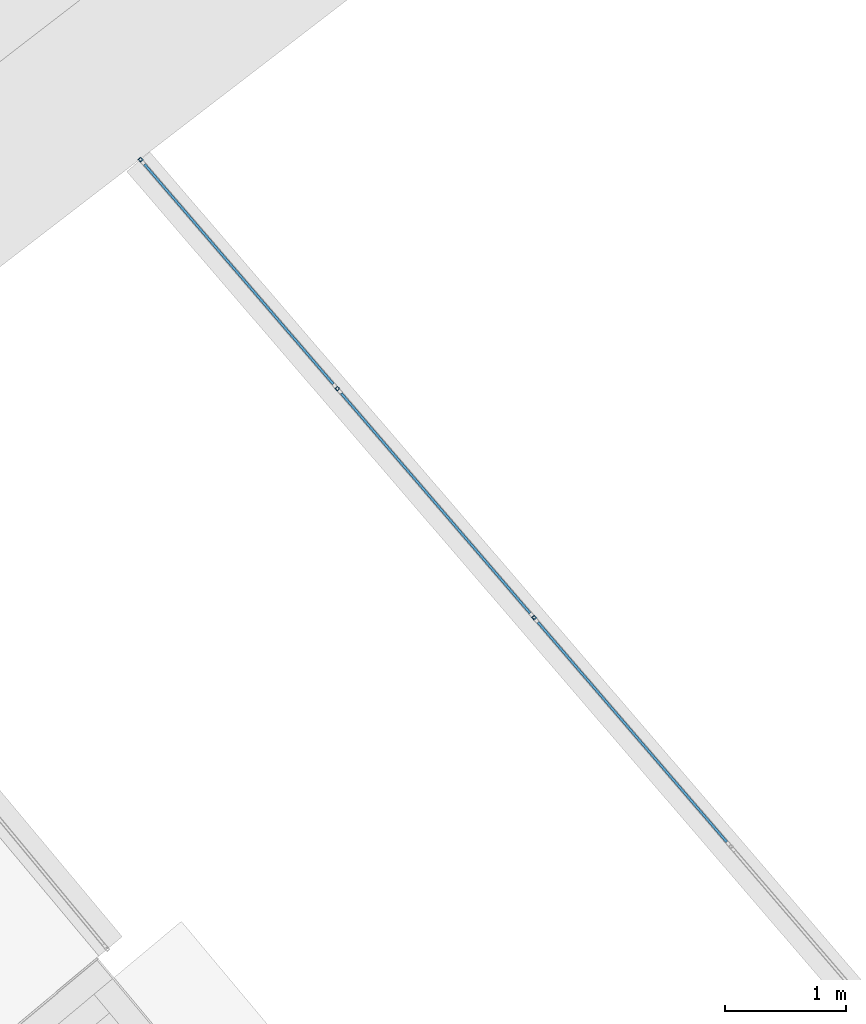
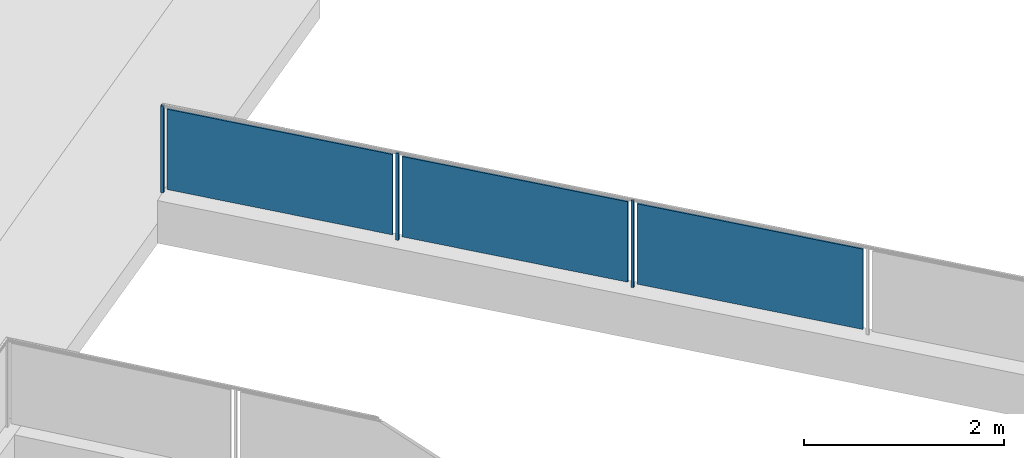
# One storey, part 57 of 75: 6 building element parts, 1 element without a shape of its own.
"""IFC4 building model written with IfcOpenShell, lengths in metres."""

from ifc_helpers import new_model, entity, si_unit, converted_unit, derived_unit, direction, frame, origin_with_axes, place, context, subcontext, project, spatial, polygons, material, type_object, element, aggregate, save


model = new_model("IFC4")

# Units and contexts
model_context = context("Model", 3, precision=1e-05, world=origin_with_axes(), true_north=direction((0.0, 1.0)))
body_context = subcontext(model_context, "Body", "Model", "MODEL_VIEW")
ifc_project = project(units=[si_unit("LENGTHUNIT", "METRE"), si_unit("AREAUNIT", "SQUARE_METRE"), si_unit("VOLUMEUNIT", "CUBIC_METRE"), converted_unit("PLANEANGLEUNIT", "DEGREE", entity("IfcPlaneAngleMeasure", 0.0174532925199), si_unit("PLANEANGLEUNIT", "RADIAN"), dimensions=[0, 0, 0, 0, 0, 0, 0]), converted_unit("TIMEUNIT", "Year", entity("IfcTimeMeasure", 31556926.0), si_unit("TIMEUNIT", "SECOND"), dimensions=[0, 0, 1, 0, 0, 0, 0]), si_unit("MASSUNIT", "GRAM", prefix="KILO"), si_unit("THERMODYNAMICTEMPERATUREUNIT", "DEGREE_CELSIUS"), si_unit("LUMINOUSINTENSITYUNIT", "LUMEN"), si_unit("ENERGYUNIT", "JOULE", prefix="MEGA"), derived_unit("THERMALCONDUCTANCEUNIT", [(si_unit("POWERUNIT", "WATT"), 1), (si_unit("LENGTHUNIT", "METRE"), -1), (si_unit("THERMODYNAMICTEMPERATUREUNIT", "KELVIN"), -1)]), derived_unit("SPECIFICHEATCAPACITYUNIT", [(si_unit("ENERGYUNIT", "JOULE"), 1), (si_unit("MASSUNIT", "GRAM", prefix="KILO"), -1), (si_unit("THERMODYNAMICTEMPERATUREUNIT", "KELVIN"), -1)]), derived_unit("MASSDENSITYUNIT", [(si_unit("MASSUNIT", "GRAM", prefix="KILO"), 1), (si_unit("VOLUMEUNIT", "CUBIC_METRE"), -1)])], contexts=[model_context])

# Site, building, storey
site_placement = place(None, frame((-0.00153261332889, -0.00661245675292, 0.0), z_axis=(0.0, 0.0, 1.0), x_axis=(1.0, 0.0, 0.0)))
site = spatial("IfcSite", under=ifc_project, at=site_placement, Name="Gelände", CompositionType="ELEMENT")
building_placement = place(site_placement, origin_with_axes())
building = spatial("IfcBuilding", under=site, at=building_placement, Name="Gebäude", CompositionType="ELEMENT")
storey_placement = place(building_placement, frame((0.0, 0.0, -0.22), z_axis=(0.0, 0.0, 1.0), x_axis=(1.0, 0.0, 0.0)))
storey = spatial("IfcBuildingStorey", under=building, at=storey_placement, Name="EG", CompositionType="ELEMENT", Elevation=-0.22)

# Railing, building element parts
railing_type = type_object("IfcRailingType", Name="Geländerart", PredefinedType="NOTDEFINED")
railing_placement = place(storey_placement, frame((-12.1608341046, 23.557810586, 0.523948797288), z_axis=(0.0, 0.0, 1.0), x_axis=(1.0, 0.0, 0.0)))
railing = element("IfcRailing", 1, at=railing_placement, inside=storey, type_object=railing_type, Name="Geländer - 001", PredefinedType="NOTDEFINED")
ifc_material_1 = material(Name="Aluminium")
building_element_part_1_placement = place(railing_placement, origin_with_axes())
building_element_part_1 = element("IfcBuildingElementPart", 2, at=building_element_part_1_placement, material=ifc_material_1, Name="Aluminium", PredefinedType="NOTDEFINED", context=body_context, shape_type="Tessellation", body=[
    polygons([(17.4583632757, 13.4377624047, 0.0), (17.4356091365, 13.4182112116, 0.0), (17.4356091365, 13.4182112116, 1.06), (17.4583632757, 13.4377624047, 1.06), (17.4779144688, 13.4150082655, 0.0), (17.4551603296, 13.3954570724, 0.0), (17.4578294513, 13.430711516, 0.0), (17.4426600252, 13.4176773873, 0.0), (17.4556941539, 13.4025079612, 0.0), (17.47086358, 13.4155420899, 0.0), (17.4551603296, 13.3954570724, 1.06), (17.4779144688, 13.4150082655, 1.06), (17.4578294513, 13.430711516, 1.06), (17.47086358, 13.4155420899, 1.06), (17.4556941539, 13.4025079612, 1.06), (17.4426600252, 13.4176773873, 1.06)], [[[1, 2, 3, 4]], [[1, 5, 6, 2], [7, 8, 9, 10]], [[2, 6, 11, 3]], [[4, 3, 11, 12], [13, 14, 15, 16]], [[5, 1, 4, 12]], [[6, 5, 12, 11]], [[8, 7, 13, 16]], [[9, 8, 16, 15]], [[10, 9, 15, 14]], [[7, 10, 14, 13]]], closed=True),
])
ifc_material_2 = material(Name="Zaun")
building_element_part_2_placement = place(railing_placement, origin_with_axes())
building_element_part_2 = element("IfcBuildingElementPart", 3, at=building_element_part_2_placement, material=ifc_material_2, Name="Zaun", PredefinedType="NOTDEFINED", context=body_context, shape_type="Tessellation", body=[
    polygons([(20.7237481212, 9.59906975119, 0.05), (22.2795703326, 7.78836720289, 0.05), (22.2795703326, 7.78836720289, 1.03), (20.7237481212, 9.59906975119, 1.03), (22.2947397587, 7.80140133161, 0.05), (20.7389175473, 9.61210387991, 0.05), (22.2947397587, 7.80140133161, 1.03), (20.7389175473, 9.61210387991, 1.03)], [[[1, 2, 3, 4]], [[5, 2, 1, 6]], [[7, 3, 2, 5]], [[4, 3, 7, 8]], [[1, 4, 8, 6]], [[7, 5, 6, 8]]], closed=True),
])
building_element_part_3_placement = place(railing_placement, origin_with_axes())
building_element_part_3 = element("IfcBuildingElementPart", 4, at=building_element_part_3_placement, material=ifc_material_1, Name="Aluminium", PredefinedType="NOTDEFINED", context=body_context, shape_type="Tessellation", body=[
    polygons([(20.7003489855, 9.66466304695, 0.0), (20.6775948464, 9.64511185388, 0.0), (20.6775948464, 9.64511185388, 1.06), (20.7003489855, 9.66466304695, 1.06), (20.7199001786, 9.64190890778, 0.0), (20.6971460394, 9.62235771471, 0.0), (20.6998151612, 9.65761215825, 0.0), (20.6846457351, 9.64457802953, 0.0), (20.6976798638, 9.62940860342, 0.0), (20.7128492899, 9.64244273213, 0.0), (20.6971460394, 9.62235771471, 1.06), (20.7199001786, 9.64190890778, 1.06), (20.6998151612, 9.65761215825, 1.06), (20.7128492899, 9.64244273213, 1.06), (20.6976798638, 9.62940860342, 1.06), (20.6846457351, 9.64457802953, 1.06)], [[[1, 2, 3, 4]], [[1, 5, 6, 2], [7, 8, 9, 10]], [[2, 6, 11, 3]], [[4, 3, 11, 12], [13, 14, 15, 16]], [[5, 1, 4, 12]], [[6, 5, 12, 11]], [[8, 7, 13, 16]], [[9, 8, 16, 15]], [[10, 9, 15, 14]], [[7, 10, 14, 13]]], closed=True),
])
building_element_part_4_placement = place(railing_placement, origin_with_axes())
building_element_part_4 = element("IfcBuildingElementPart", 5, at=building_element_part_4_placement, material=ifc_material_2, Name="Zaun", PredefinedType="NOTDEFINED", context=body_context, shape_type="Tessellation", body=[
    polygons([(19.1027552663, 11.4856194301, 0.05), (20.6585774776, 9.67491688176, 0.05), (20.6585774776, 9.67491688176, 1.03), (19.1027552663, 11.4856194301, 1.03), (20.6737469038, 9.68795101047, 0.05), (19.1179246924, 11.4986535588, 0.05), (20.6737469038, 9.68795101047, 1.03), (19.1179246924, 11.4986535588, 1.03)], [[[1, 2, 3, 4]], [[5, 2, 1, 6]], [[7, 3, 2, 5]], [[4, 3, 7, 8]], [[1, 4, 8, 6]], [[7, 5, 6, 8]]], closed=True),
])
building_element_part_5_placement = place(railing_placement, origin_with_axes())
building_element_part_5 = element("IfcBuildingElementPart", 6, at=building_element_part_5_placement, material=ifc_material_1, Name="Aluminium", PredefinedType="NOTDEFINED", context=body_context, shape_type="Tessellation", body=[
    polygons([(19.0793561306, 11.5512127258, 0.0), (19.0566019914, 11.5316615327, 0.0), (19.0566019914, 11.5316615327, 1.06), (19.0793561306, 11.5512127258, 1.06), (19.0989073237, 11.5284585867, 0.0), (19.0761531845, 11.5089073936, 0.0), (19.0788223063, 11.5441618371, 0.0), (19.0636528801, 11.5311277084, 0.0), (19.0766870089, 11.5159582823, 0.0), (19.091856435, 11.528992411, 0.0), (19.0761531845, 11.5089073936, 1.06), (19.0989073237, 11.5284585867, 1.06), (19.0788223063, 11.5441618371, 1.06), (19.091856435, 11.528992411, 1.06), (19.0766870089, 11.5159582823, 1.06), (19.0636528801, 11.5311277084, 1.06)], [[[1, 2, 3, 4]], [[1, 5, 6, 2], [7, 8, 9, 10]], [[2, 6, 11, 3]], [[4, 3, 11, 12], [13, 14, 15, 16]], [[5, 1, 4, 12]], [[6, 5, 12, 11]], [[8, 7, 13, 16]], [[9, 8, 16, 15]], [[10, 9, 15, 14]], [[7, 10, 14, 13]]], closed=True),
])
building_element_part_6_placement = place(railing_placement, origin_with_axes())
building_element_part_6 = element("IfcBuildingElementPart", 7, at=building_element_part_6_placement, material=ifc_material_2, Name="Zaun", PredefinedType="NOTDEFINED", context=body_context, shape_type="Tessellation", body=[
    polygons([(17.4817624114, 13.3721691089, 0.05), (19.0375846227, 11.5614665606, 0.05), (19.0375846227, 11.5614665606, 1.03), (17.4817624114, 13.3721691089, 1.03), (19.0527540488, 11.5745006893, 0.05), (17.4969318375, 13.3852032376, 0.05), (19.0527540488, 11.5745006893, 1.03), (17.4969318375, 13.3852032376, 1.03)], [[[1, 2, 3, 4]], [[5, 2, 1, 6]], [[7, 3, 2, 5]], [[4, 3, 7, 8]], [[1, 4, 8, 6]], [[7, 5, 6, 8]]], closed=True),
])
aggregate(railing, [building_element_part_1, building_element_part_2, building_element_part_3, building_element_part_4, building_element_part_5, building_element_part_6])

save(model, "model.ifc")
